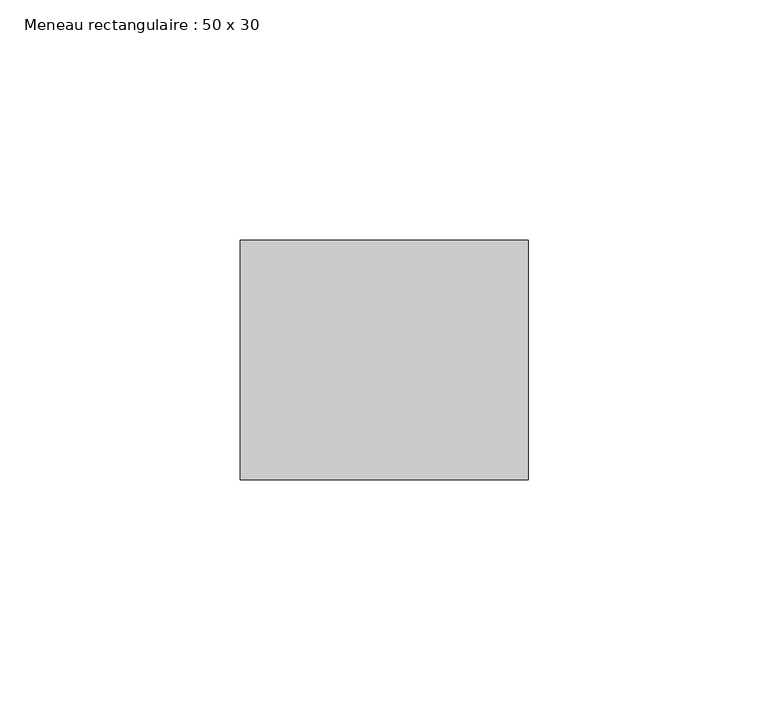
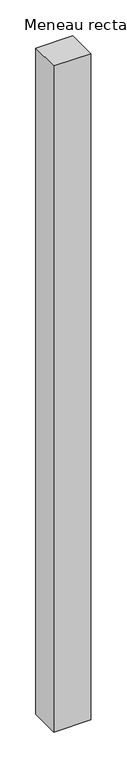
"""IFC4 building model written with IfcOpenShell, lengths in millimetres: member geometry, Meneau rectangulaire : 50 x 30."""

from ifc_helpers import new_model, si_unit, frame, origin, place, context, project, spatial, polyline, outline, extrude, source, transform, mapped, element, save


def meneau_rectangulaire_50_x_30_b2ce37ac(model_context):
    return source(origin(), model_context, "Body", "SweptSolid", [
        extrude(outline(polyline([(0.0, 0.0), (0.0, -50.0), (-60.0, -50.0), (-60.0, 0.0), (0.0, 0.0)])), frame((0.0, 0.0, -1137.0), z_axis=(0.0, 0.0, 1.0), x_axis=(1.0, 0.0, 0.0)), (0.0, 0.0, 1.0), 1137.0),
    ])


if __name__ == "__main__":
    model = new_model("IFC4")
    model_context = context("Model", 3, world=origin())
    ifc_project = project(units=[si_unit("LENGTHUNIT", "METRE", prefix="MILLI")], contexts=[model_context])
    site = spatial("IfcSite", under=ifc_project)
    building = spatial("IfcBuilding", under=site)
    placement = place(None, origin())
    meneau_rectangulaire_50_x_30_shape = meneau_rectangulaire_50_x_30_b2ce37ac(model_context)
    element("IfcMember", 1, ObjectType="Meneau rectangulaire : 50 x 30", at=placement, inside=building, context=model_context, shape_type="MappedRepresentation", body=[
        mapped(meneau_rectangulaire_50_x_30_shape, transform((0.0, 0.0, 0.0), x_axis=(1.0, 0.0, 0.0), y_axis=(0.0, 1.0, 0.0), z_axis=(0.0, 0.0, 1.0))),
    ])
    save(model, "model.ifc")
